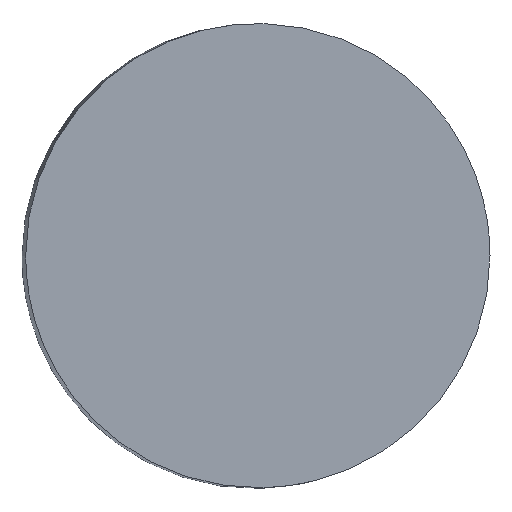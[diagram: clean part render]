
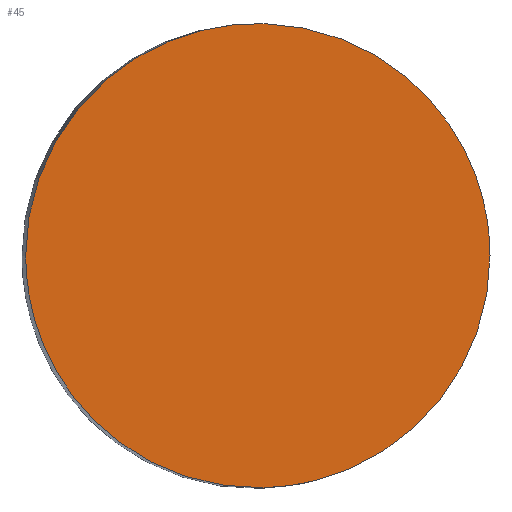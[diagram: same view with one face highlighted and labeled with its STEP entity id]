
A CAD part, left-side view. The second image highlights one B-rep face of the part: STEP entity #45.
In plain terms, the highlighted free-form (B-spline) face has degree [1, 1] with [2, 2] control points.
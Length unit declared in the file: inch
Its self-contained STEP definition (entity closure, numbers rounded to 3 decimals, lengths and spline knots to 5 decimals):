
#43=B_SPLINE_SURFACE_WITH_KNOTS('',1,1,((#173,#174),(#175,#176)),
 .UNSPECIFIED.,.F.,.F.,.F.,(2,2),(2,2),(0.,1.),(0.,1.),.UNSPECIFIED.);
#45=ADVANCED_FACE('',(#55),#43,.F.);
#55=FACE_OUTER_BOUND('',#61,.T.);
#61=EDGE_LOOP('',(#78,#79,#80,#81));
#78=ORIENTED_EDGE('',*,*,#106,.F.);
#79=ORIENTED_EDGE('',*,*,#110,.F.);
#80=ORIENTED_EDGE('',*,*,#111,.F.);
#81=ORIENTED_EDGE('',*,*,#112,.F.);
#98=VERTEX_POINT('',#141);
#99=VERTEX_POINT('',#142);
#102=VERTEX_POINT('',#163);
#103=VERTEX_POINT('',#168);
#106=EDGE_CURVE('',#98,#99,#118,.T.);
#110=EDGE_CURVE('',#102,#98,#120,.T.);
#111=EDGE_CURVE('',#103,#102,#121,.T.);
#112=EDGE_CURVE('',#99,#103,#122,.T.);
#118=(
BOUNDED_CURVE()
B_SPLINE_CURVE(3,(#137,#138,#139,#140),.UNSPECIFIED.,.F.,.F.)
B_SPLINE_CURVE_WITH_KNOTS((4,4),(0.,1.),.UNSPECIFIED.)
CURVE()
GEOMETRIC_REPRESENTATION_ITEM()
RATIONAL_B_SPLINE_CURVE((0.96,0.642,0.489,
0.501))
REPRESENTATION_ITEM('')
);
#120=(
BOUNDED_CURVE()
B_SPLINE_CURVE(3,(#159,#160,#161,#162),.UNSPECIFIED.,.F.,.F.)
B_SPLINE_CURVE_WITH_KNOTS((4,4),(0.,1.),.UNSPECIFIED.)
CURVE()
GEOMETRIC_REPRESENTATION_ITEM()
RATIONAL_B_SPLINE_CURVE((0.5,0.503,0.684,
1.044))
REPRESENTATION_ITEM('')
);
#121=(
BOUNDED_CURVE()
B_SPLINE_CURVE(3,(#164,#165,#166,#167),.UNSPECIFIED.,.F.,.F.)
B_SPLINE_CURVE_WITH_KNOTS((4,4),(0.,1.),.UNSPECIFIED.)
CURVE()
GEOMETRIC_REPRESENTATION_ITEM()
RATIONAL_B_SPLINE_CURVE((0.958,0.65,0.497,
0.5))
REPRESENTATION_ITEM('')
);
#122=(
BOUNDED_CURVE()
B_SPLINE_CURVE(3,(#169,#170,#171,#172),.UNSPECIFIED.,.F.,.F.)
B_SPLINE_CURVE_WITH_KNOTS((4,4),(0.,1.),.UNSPECIFIED.)
CURVE()
GEOMETRIC_REPRESENTATION_ITEM()
RATIONAL_B_SPLINE_CURVE((0.501,0.512,0.694,
1.046))
REPRESENTATION_ITEM('')
);
#137=CARTESIAN_POINT('',(1025.66097,91.06154,0.04361));
#138=CARTESIAN_POINT('',(1025.67081,91.10735,46.71344));
#139=CARTESIAN_POINT('',(1025.71827,59.43117,92.20365));
#140=CARTESIAN_POINT('',(1025.79102,-1.81863,90.5733));
#141=CARTESIAN_POINT('',(1025.66097,91.06154,0.04361));
#142=CARTESIAN_POINT('',(1025.79102,-1.81863,90.5733));
#159=CARTESIAN_POINT('',(1025.75267,-1.8179,-90.30852));
#160=CARTESIAN_POINT('',(1025.67828,60.21529,-91.95919));
#161=CARTESIAN_POINT('',(1025.65135,91.01676,-45.56836));
#162=CARTESIAN_POINT('',(1025.66097,91.06154,0.04361));
#163=CARTESIAN_POINT('',(1025.75267,-1.8179,-90.30852));
#164=CARTESIAN_POINT('',(1025.87694,-89.88411,0.04279));
#165=CARTESIAN_POINT('',(1025.86739,-89.83977,-44.73624));
#166=CARTESIAN_POINT('',(1025.82282,-60.31475,-88.75194));
#167=CARTESIAN_POINT('',(1025.75267,-1.8179,-90.30852));
#168=CARTESIAN_POINT('',(1025.87694,-89.88411,0.04279));
#169=CARTESIAN_POINT('',(1025.79102,-1.81863,90.5733));
#170=CARTESIAN_POINT('',(1025.86164,-61.25998,88.99108));
#171=CARTESIAN_POINT('',(1025.8863,-89.92757,43.93087));
#172=CARTESIAN_POINT('',(1025.87694,-89.88411,0.04279));
#173=CARTESIAN_POINT('',(1025.59408,147.10321,0.01008));
#174=CARTESIAN_POINT('',(1025.73611,1.57801,-149.29369));
#175=CARTESIAN_POINT('',(1025.80466,-3.28835,146.59575));
#176=CARTESIAN_POINT('',(1025.94669,-148.81356,-2.70803));
